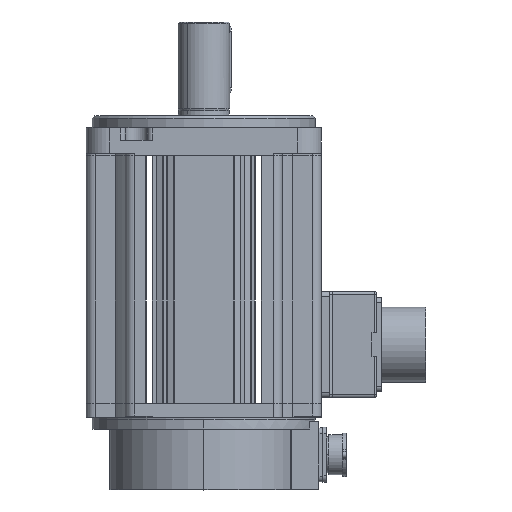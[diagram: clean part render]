
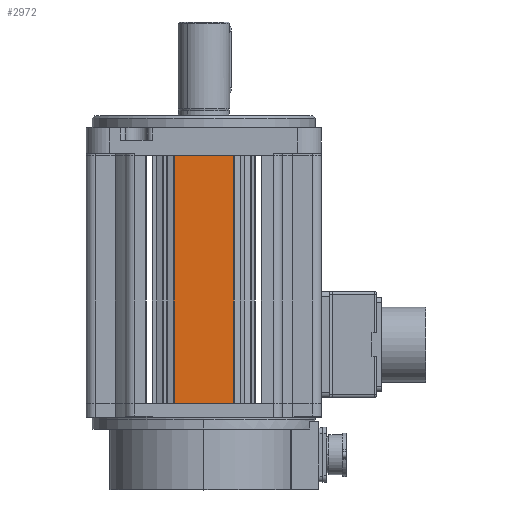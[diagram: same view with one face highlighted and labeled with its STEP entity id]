
A CAD part, front view. The second image highlights one B-rep face of the part: STEP entity #2972.
In plain terms, the highlighted planar face has unit normal (0, -1, 0).
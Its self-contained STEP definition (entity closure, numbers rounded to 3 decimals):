
#2944 = VERTEX_POINT('',#2945);
#2945 = CARTESIAN_POINT('',(-3.579,-53.66,
    160.876));
#2952 = EDGE_CURVE('',#2953,#2944,#2955,.T.);
#2953 = VERTEX_POINT('',#2954);
#2954 = CARTESIAN_POINT('',(-3.579,-53.66,
    55.376));
#2955 = LINE('',#2956,#2957);
#2956 = CARTESIAN_POINT('',(-3.579,-53.66,
    160.876));
#2957 = VECTOR('',#2958,1.);
#2958 = DIRECTION('',(-0.,-0.,1.));
#2972 = ADVANCED_FACE('',(#2973),#2998,.F.);
#2973 = FACE_BOUND('',#2974,.T.);
#2974 = EDGE_LOOP('',(#2975,#2983,#2984,#2992));
#2975 = ORIENTED_EDGE('',*,*,#2976,.T.);
#2976 = EDGE_CURVE('',#2977,#2953,#2979,.T.);
#2977 = VERTEX_POINT('',#2978);
#2978 = CARTESIAN_POINT('',(-28.979,-53.66,
    55.376));
#2979 = LINE('',#2980,#2981);
#2980 = CARTESIAN_POINT('',(13.221,-53.66,
    55.376));
#2981 = VECTOR('',#2982,1.);
#2982 = DIRECTION('',(1.,0.,-0.));
#2983 = ORIENTED_EDGE('',*,*,#2952,.T.);
#2984 = ORIENTED_EDGE('',*,*,#2985,.F.);
#2985 = EDGE_CURVE('',#2986,#2944,#2988,.T.);
#2986 = VERTEX_POINT('',#2987);
#2987 = CARTESIAN_POINT('',(-28.979,-53.66,
    160.876));
#2988 = LINE('',#2989,#2990);
#2989 = CARTESIAN_POINT('',(13.221,-53.66,
    160.876));
#2990 = VECTOR('',#2991,1.);
#2991 = DIRECTION('',(1.,0.,-0.));
#2992 = ORIENTED_EDGE('',*,*,#2993,.T.);
#2993 = EDGE_CURVE('',#2986,#2977,#2994,.T.);
#2994 = LINE('',#2995,#2996);
#2995 = CARTESIAN_POINT('',(-28.979,-53.66,
    160.876));
#2996 = VECTOR('',#2997,1.);
#2997 = DIRECTION('',(0.,0.,-1.));
#2998 = PLANE('',#2999);
#2999 = AXIS2_PLACEMENT_3D('',#3000,#3001,#3002);
#3000 = CARTESIAN_POINT('',(13.221,-53.66,
    160.876));
#3001 = DIRECTION('',(0.,1.,0.));
#3002 = DIRECTION('',(-1.,0.,0.));
